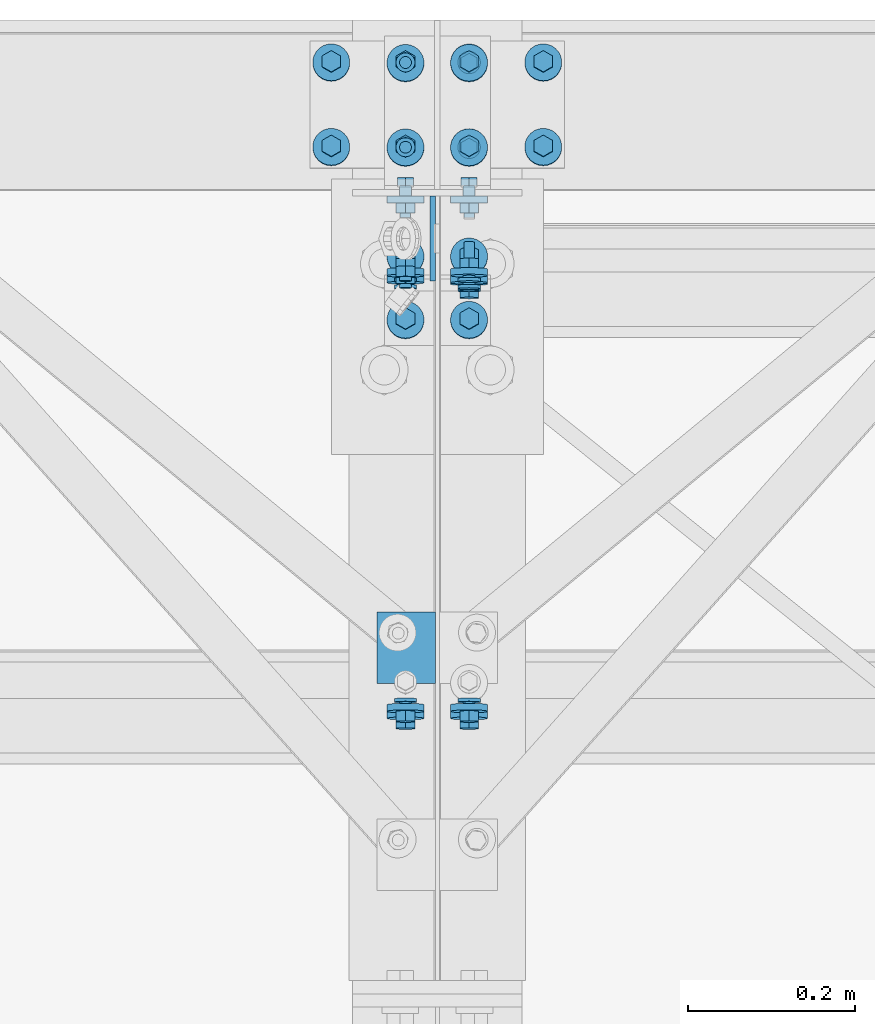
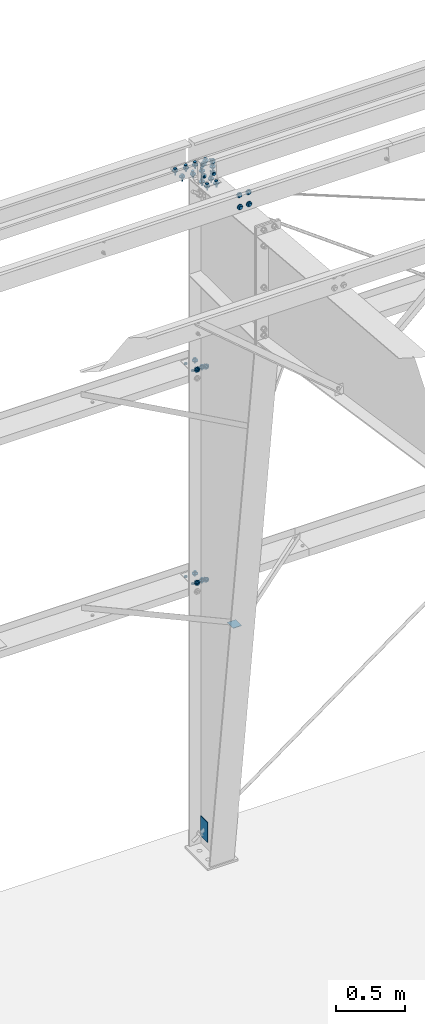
# One storey, part 88 of 185: 18 mechanical fasteners, 2 discrete accessories, 12 elements without a shape of their own.
"""IFC2X3 building model written with IfcOpenShell, lengths in millimetres."""

from ifc_helpers import new_model, si_unit, frame, origin_with_axes, origin_2d_with_axis, place, context, subcontext, project, spatial, polyline, rectangle, circle, outline, extrude, source, transform, mapped, material, type_object, element, aggregate, save


model = new_model("IFC2X3")

# Units and contexts
model_context = context("Model", 3, precision=1e-05, world=origin_with_axes())
body_context = subcontext(model_context, "Body", "Model", "MODEL_VIEW")
ifc_project = project(units=[si_unit("LENGTHUNIT", "METRE", prefix="MILLI"), si_unit("AREAUNIT", "SQUARE_METRE"), si_unit("VOLUMEUNIT", "CUBIC_METRE"), si_unit("MASSUNIT", "GRAM", prefix="KILO"), si_unit("TIMEUNIT", "SECOND"), si_unit("PLANEANGLEUNIT", "RADIAN"), si_unit("SOLIDANGLEUNIT", "STERADIAN"), si_unit("THERMODYNAMICTEMPERATUREUNIT", "DEGREE_CELSIUS"), si_unit("LUMINOUSINTENSITYUNIT", "LUMEN")], contexts=[model_context])

# Site, building, storey
site_placement = place(None, origin_with_axes())
site = spatial("IfcSite", under=ifc_project, at=site_placement, Name="Undefined", CompositionType="ELEMENT")
building_placement = place(site_placement, origin_with_axes())
building = spatial("IfcBuilding", under=site, at=building_placement, Name="Undefined", CompositionType="ELEMENT")
storey_placement = place(building_placement, origin_with_axes())
storey = spatial("IfcBuildingStorey", under=building, at=storey_placement, Name="Undefined", CompositionType="ELEMENT", Elevation=0.0)

# Assembly, mechanical fasteners
assembly_1_placement = place(storey_placement, origin_with_axes())
assembly_1 = element("IfcElementAssembly", 1, at=assembly_1_placement, inside=storey, Name="Steel Assembly", AssemblyPlace="NOTDEFINED", PredefinedType="RIGID_FRAME")
ifc_material_1 = material(Name="Undefined")
discrete_accessory_type_1 = type_object("IfcDiscreteAccessoryType", Name="Bolt assembly")
shared_shape_1 = source(origin_with_axes(), body_context, "Body", "SweptSolid", [
    extrude(circle(Radius=7.14374971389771, at=origin_2d_with_axis()), frame((0.0, -1.59000001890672, 0.0), z_axis=(0.0, 1.0, 0.0), x_axis=(1.0, 0.0, 0.0)), (0.0, 0.0, 1.0), 3.3),
    extrude(circle(Radius=13.4937496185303, at=origin_2d_with_axis()), frame((0.0, -5.5587500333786, 0.0), z_axis=(0.0, 1.0, 0.0), x_axis=(1.0, 0.0, 0.0)), (0.0, 0.0, 1.0), 4.0),
    extrude(circle(Radius=22.2250003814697, at=origin_2d_with_axis()), frame((0.0, 1.5900000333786, 0.0), z_axis=(0.0, 1.0, 0.0), x_axis=(1.0, 0.0, 0.0)), (0.0, 0.0, 1.0), 7.9),
    extrude(outline(polyline([(12.8316099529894, 0.0), (6.4158049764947, 11.1125001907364), (-6.4158049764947, 11.1125001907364), (-12.8316099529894, 0.0), (-6.4158049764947, -11.1125001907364), (6.4158049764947, -11.1125001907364), (12.8316099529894, 0.0)])), frame((0.0, 9.5275000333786, 0.0), z_axis=(0.0, 1.0, 0.0), x_axis=(1.0, 0.0, 0.0)), (0.0, 0.0, 1.0), 12.3),
])
mechanical_fastener_1_placement = place(assembly_1_placement, frame((7277.1, 31696.1295150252, 6070.67979008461), z_axis=(1.0, 0.0, 0.0), x_axis=(0.0, -0.0830454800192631, -0.996545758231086)))
mechanical_fastener_1 = element("IfcMechanicalFastener", 2, at=mechanical_fastener_1_placement, type_object=discrete_accessory_type_1, material=ifc_material_1, Name="Bolt assembly", NominalDiameter=12.6999998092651, NominalLength=38.0999984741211, context=body_context, shape_type="MappedRepresentation", body=[
    mapped(shared_shape_1, transform((0.0, 0.0, 0.0))),
    mapped(shared_shape_1, transform((101.599998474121, 0.0, 0.0))),
])
mechanical_fastener_2_placement = place(assembly_1_placement, frame((7200.9, 31696.1295150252, 6070.67979008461), z_axis=(1.0, 0.0, 0.0), x_axis=(0.0, -0.0830454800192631, -0.996545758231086)))
mechanical_fastener_2 = element("IfcMechanicalFastener", 3, at=mechanical_fastener_2_placement, type_object=discrete_accessory_type_1, material=ifc_material_1, Name="Bolt assembly", NominalDiameter=12.6999998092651, NominalLength=38.0999984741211, context=body_context, shape_type="MappedRepresentation", body=[
    mapped(shared_shape_1, transform((0.0, 0.0, 0.0))),
    mapped(shared_shape_1, transform((101.599998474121, 0.0, 0.0))),
])

# Assembly, mechanical fastener
assembly_2_placement = place(storey_placement, origin_with_axes())
assembly_2 = element("IfcElementAssembly", 4, at=assembly_2_placement, inside=storey, Name="Steel Assembly", AssemblyPlace="NOTDEFINED", PredefinedType="RIGID_FRAME")
mechanical_fastener_3_placement = place(assembly_2_placement, frame((7200.9, 31185.1382206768, 6113.2623980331), z_axis=(-1.0, 0.0, 0.0), x_axis=(0.0, -0.0830454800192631, -0.996545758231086)))
mechanical_fastener_3 = element("IfcMechanicalFastener", 5, at=mechanical_fastener_3_placement, type_object=discrete_accessory_type_1, material=ifc_material_1, Name="Bolt assembly", NominalDiameter=12.6999998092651, NominalLength=38.0999984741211, context=body_context, shape_type="MappedRepresentation", body=[
    mapped(shared_shape_1, transform((0.0, 0.0, 0.0))),
    mapped(shared_shape_1, transform((101.599998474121, 0.0, 0.0))),
])
aggregate(assembly_2, [mechanical_fastener_3])

assembly_3_placement = place(storey_placement, origin_with_axes())
assembly_3 = element("IfcElementAssembly", 6, at=assembly_3_placement, inside=storey, Name="Steel Assembly", AssemblyPlace="NOTDEFINED", PredefinedType="RIGID_FRAME")
mechanical_fastener_4_placement = place(assembly_3_placement, frame((7277.1, 31185.1382206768, 6113.2623980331), z_axis=(-1.0, 0.0, 0.0), x_axis=(0.0, -0.0830454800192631, -0.996545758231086)))
mechanical_fastener_4 = element("IfcMechanicalFastener", 7, at=mechanical_fastener_4_placement, type_object=discrete_accessory_type_1, material=ifc_material_1, Name="Bolt assembly", NominalDiameter=12.6999998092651, NominalLength=38.0999984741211, context=body_context, shape_type="MappedRepresentation", body=[
    mapped(shared_shape_1, transform((0.0, 0.0, 0.0))),
    mapped(shared_shape_1, transform((101.599998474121, 0.0, 0.0))),
])
aggregate(assembly_3, [mechanical_fastener_4])

# Assembly, discrete accessory
assembly_4_placement = place(storey_placement, origin_with_axes())
assembly_4 = element("IfcElementAssembly", 8, at=assembly_4_placement, inside=storey, Name="Steel Assembly", AssemblyPlace="NOTDEFINED", PredefinedType="RIGID_FRAME")
ifc_material_2 = material(Name="STEEL/55")
discrete_accessory_type_2 = type_object("IfcDiscreteAccessoryType", Name="FLANGE BRACE FLIP")
discrete_accessory_1_placement = place(assembly_4_placement, frame((7236.61875, 31251.9277679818, 2284.292), z_axis=(0.0, 1.0, 0.0), x_axis=(-1.0, 0.0, 0.0)))
discrete_accessory_1 = element("IfcDiscreteAccessory", 9, at=discrete_accessory_1_placement, type_object=discrete_accessory_type_2, material=ifc_material_2, Name="FLANGE BRACE FLIP", ObjectType="PL1/8\"X2 3/4\"", context=body_context, shape_type="SweptSolid", body=[
    extrude(rectangle(XDim=3.416, YDim=85.725, at=origin_2d_with_axis()), frame((69.8499999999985, 0.0, 0.0), z_axis=(-1.0, 0.0, 0.0), x_axis=(0.0, -1.0, 0.0)), (0.0, 0.0, 1.0), 69.9),
])

# Assembly, mechanical fastener
assembly_5_placement = place(storey_placement, origin_with_axes())
assembly_5 = element("IfcElementAssembly", 10, at=assembly_5_placement, inside=storey, Name="Steel Assembly", AssemblyPlace="NOTDEFINED", PredefinedType="RIGID_FRAME")
shared_shape_2 = source(origin_with_axes(), body_context, "Body", "SweptSolid", [
    extrude(circle(Radius=7.14374971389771, at=origin_2d_with_axis()), frame((0.0, -0.1, 0.0), z_axis=(0.0, 1.0, 0.0), x_axis=(1.0, 0.0, 0.0)), (0.0, 0.0, 1.0), 8.0),
    extrude(circle(Radius=7.14374971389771, at=origin_2d_with_axis()), frame((0.0, -4.66250000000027, 0.0), z_axis=(0.0, 1.0, 0.0), x_axis=(1.0, 0.0, 0.0)), (0.0, 0.0, 1.0), 4.8),
    extrude(outline(polyline([(10.9985221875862, 0.0), (5.4992610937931, 9.52499961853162), (-5.4992610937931, 9.52499961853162), (-10.9985221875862, 0.0), (-5.4992610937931, -9.52499961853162), (5.4992610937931, -9.52499961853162), (10.9985221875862, 0.0)])), frame((0.0, -14.2874996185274, 0.0), z_axis=(0.0, 1.0, 0.0), x_axis=(1.0, 0.0, 0.0)), (0.0, 0.0, 1.0), 9.5),
    extrude(circle(Radius=6.34999990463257, at=origin_2d_with_axis()), frame((0.0, -4.76250000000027, 0.0), z_axis=(0.0, 1.0, 0.0), x_axis=(1.0, 0.0, 0.0)), (0.0, 0.0, 1.0), 38.1),
    extrude(circle(Radius=22.2250003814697, at=origin_2d_with_axis()), frame((0.0, 7.87399999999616, 0.0), z_axis=(0.0, 1.0, 0.0), x_axis=(1.0, 0.0, 0.0)), (0.0, 0.0, 1.0), 7.9),
    extrude(outline(polyline([(12.8316099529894, 0.0), (6.4158049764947, 11.1125001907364), (-6.4158049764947, 11.1125001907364), (-12.8316099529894, 0.0), (-6.4158049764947, -11.1125001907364), (6.4158049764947, -11.1125001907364), (12.8316099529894, 0.0)])), frame((0.0, 15.8114999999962, 0.0), z_axis=(0.0, 1.0, 0.0), x_axis=(1.0, 0.0, 0.0)), (0.0, 0.0, 1.0), 12.3),
])
mechanical_fastener_5_placement = place(assembly_5_placement, frame((7239.0, 31800.8, 2324.1), z_axis=(1.0, 0.0, 0.0), x_axis=(0.0, 0.0, 1.0)))
mechanical_fastener_5 = element("IfcMechanicalFastener", 11, at=mechanical_fastener_5_placement, type_object=discrete_accessory_type_1, material=ifc_material_1, Name="Bolt assembly", NominalDiameter=12.6999998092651, NominalLength=38.0999984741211, context=body_context, shape_type="MappedRepresentation", body=[
    mapped(shared_shape_2, transform((0.0, 0.0, -38.0999984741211))),
    mapped(shared_shape_2, transform((0.0, 0.0, 38.0999984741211))),
])

assembly_6_placement = place(storey_placement, origin_with_axes())
assembly_6 = element("IfcElementAssembly", 12, at=assembly_6_placement, inside=storey, Name="Steel Assembly", AssemblyPlace="NOTDEFINED", PredefinedType="RIGID_FRAME")
mechanical_fastener_6_placement = place(assembly_6_placement, frame((7239.0, 31800.8, 4203.7), z_axis=(1.0, 0.0, 0.0), x_axis=(0.0, 0.0, 1.0)))
mechanical_fastener_6 = element("IfcMechanicalFastener", 13, at=mechanical_fastener_6_placement, type_object=discrete_accessory_type_1, material=ifc_material_1, Name="Bolt assembly", NominalDiameter=12.6999998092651, NominalLength=38.0999984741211, context=body_context, shape_type="MappedRepresentation", body=[
    mapped(shared_shape_2, transform((0.0, 0.0, -38.0999984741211))),
    mapped(shared_shape_2, transform((0.0, 0.0, 38.0999984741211))),
])

# Discrete accessory
discrete_accessory_type_3 = type_object("IfcDiscreteAccessoryType", Name="BACKUP PL SINGLE SLOT")
discrete_accessory_2_placement = place(assembly_4_placement, frame((7233.44375127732, 31742.1288478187, 256.370463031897), z_axis=(-0.000896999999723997, -0.999999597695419, 0.0), x_axis=(0.0, 0.0, -1.0)))
discrete_accessory_2 = element("IfcDiscreteAccessory", 14, at=discrete_accessory_2_placement, type_object=discrete_accessory_type_3, material=ifc_material_2, Name="BACKUP PL SINGLE SLOT", ObjectType="FL1/4\"X4\"", context=body_context, shape_type="SweptSolid", body=[
    extrude(rectangle(XDim=6.35, YDim=101.6, at=origin_2d_with_axis()), frame((177.800000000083, 0.0, 0.0), z_axis=(-1.0, 0.0, 0.0), x_axis=(0.0, -1.0, 0.0)), (0.0, 0.0, 1.0), 177.8),
])

# Assembly, mechanical fastener
assembly_7_placement = place(storey_placement, origin_with_axes())
assembly_7 = element("IfcElementAssembly", 15, at=assembly_7_placement, inside=storey, Name="Steel Assembly", AssemblyPlace="NOTDEFINED", PredefinedType="RIGID_FRAME")
ifc_material_3 = material(Name="7990")
shared_shape_3 = source(origin_with_axes(), body_context, "Body", "SweptSolid", [
    extrude(circle(Radius=7.14374971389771, at=origin_2d_with_axis()), frame((0.0, -1.4900000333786, 0.0), z_axis=(0.0, 1.0, 0.0), x_axis=(1.0, 0.0, 0.0)), (0.0, 0.0, 1.0), 3.2),
    extrude(circle(Radius=7.14374971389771, at=origin_2d_with_axis()), frame((0.0, -1.4900000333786, 0.0), z_axis=(0.0, 1.0, 0.0), x_axis=(1.0, 0.0, 0.0)), (0.0, 0.0, 1.0), 3.2),
    extrude(circle(Radius=11.4299998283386, at=origin_2d_with_axis()), frame((0.0, 1.5900000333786, 0.0), z_axis=(0.0, 1.0, 0.0), x_axis=(1.0, 0.0, 0.0)), (0.0, 0.0, 1.0), 4.2),
    extrude(outline(polyline([(12.171698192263, 0.0), (6.08584909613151, 10.5409998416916), (-6.08584909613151, 10.5409998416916), (-12.171698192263, 0.0), (-6.08584909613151, -10.5409998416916), (6.08584909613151, -10.5409998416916), (12.171698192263, 0.0)])), frame((0.0, 5.78099997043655, 0.0), z_axis=(0.0, 1.0, 0.0), x_axis=(1.0, 0.0, 0.0)), (0.0, 0.0, 1.0), 8.4),
])
mechanical_fastener_7_placement = place(assembly_7_placement, frame((7200.9, 31953.2, 2286.0), z_axis=(1.0, 0.0, 0.0), x_axis=(0.0, -1.0, 0.0)))
mechanical_fastener_7 = element("IfcMechanicalFastener", 16, at=mechanical_fastener_7_placement, type_object=discrete_accessory_type_1, material=ifc_material_3, Name="Bolt assembly", NominalDiameter=12.6999998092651, NominalLength=38.0999984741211, context=body_context, shape_type="MappedRepresentation", body=[
    mapped(shared_shape_3, transform((0.0, 0.0, 0.0))),
    mapped(shared_shape_3, transform((101.599998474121, 0.0, 0.0))),
])
aggregate(assembly_7, [mechanical_fastener_7])

assembly_8_placement = place(storey_placement, origin_with_axes())
assembly_8 = element("IfcElementAssembly", 17, at=assembly_8_placement, inside=storey, Name="Steel Assembly", AssemblyPlace="NOTDEFINED", PredefinedType="RIGID_FRAME")
mechanical_fastener_8_placement = place(assembly_8_placement, frame((7200.9, 31953.2, 4165.6), z_axis=(1.0, 0.0, 0.0), x_axis=(0.0, -1.0, 0.0)))
mechanical_fastener_8 = element("IfcMechanicalFastener", 18, at=mechanical_fastener_8_placement, type_object=discrete_accessory_type_1, material=ifc_material_3, Name="Bolt assembly", NominalDiameter=12.6999998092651, NominalLength=38.0999984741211, context=body_context, shape_type="MappedRepresentation", body=[
    mapped(shared_shape_3, transform((0.0, 0.0, 0.0))),
    mapped(shared_shape_3, transform((101.599998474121, 0.0, 0.0))),
])
aggregate(assembly_8, [mechanical_fastener_8])

# Mechanical fastener
shared_shape_4 = source(origin_with_axes(), body_context, "Body", "SweptSolid", [
    extrude(circle(Radius=7.14374971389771, at=origin_2d_with_axis()), frame((0.0, -1.59000001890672, 0.0), z_axis=(0.0, 1.0, 0.0), x_axis=(1.0, 0.0, 0.0)), (0.0, 0.0, 1.0), 3.2),
    extrude(circle(Radius=7.14374971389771, at=origin_2d_with_axis()), frame((0.0, -4.66250000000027, 0.0), z_axis=(0.0, 1.0, 0.0), x_axis=(1.0, 0.0, 0.0)), (0.0, 0.0, 1.0), 4.8),
    extrude(circle(Radius=7.14374971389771, at=origin_2d_with_axis()), frame((0.0, -1.59000001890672, 0.0), z_axis=(0.0, 1.0, 0.0), x_axis=(1.0, 0.0, 0.0)), (0.0, 0.0, 1.0), 3.2),
    extrude(outline(polyline([(10.9985221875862, 0.0), (5.4992610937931, 9.52499961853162), (-5.4992610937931, 9.52499961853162), (-10.9985221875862, 0.0), (-5.4992610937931, -9.52499961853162), (5.4992610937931, -9.52499961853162), (10.9985221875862, 0.0)])), frame((0.0, -18.2562496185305, 0.0), z_axis=(0.0, 1.0, 0.0), x_axis=(1.0, 0.0, 0.0)), (0.0, 0.0, 1.0), 9.5),
    extrude(circle(Radius=6.34999990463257, at=origin_2d_with_axis()), frame((0.0, -8.73125000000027, 0.0), z_axis=(0.0, 1.0, 0.0), x_axis=(1.0, 0.0, 0.0)), (0.0, 0.0, 1.0), 38.1),
    extrude(circle(Radius=13.4937496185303, at=origin_2d_with_axis()), frame((0.0, -8.73125000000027, 0.0), z_axis=(0.0, 1.0, 0.0), x_axis=(1.0, 0.0, 0.0)), (0.0, 0.0, 1.0), 4.0),
    extrude(circle(Radius=22.2250003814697, at=origin_2d_with_axis()), frame((0.0, 1.5900000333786, 0.0), z_axis=(0.0, 1.0, 0.0), x_axis=(1.0, 0.0, 0.0)), (0.0, 0.0, 1.0), 7.9),
    extrude(outline(polyline([(12.8316099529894, 0.0), (6.4158049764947, 11.1125001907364), (-6.4158049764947, 11.1125001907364), (-12.8316099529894, 0.0), (-6.4158049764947, -11.1125001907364), (6.4158049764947, -11.1125001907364), (12.8316099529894, 0.0)])), frame((0.0, 9.5275000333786, 0.0), z_axis=(0.0, 1.0, 0.0), x_axis=(1.0, 0.0, 0.0)), (0.0, 0.0, 1.0), 12.3),
])
mechanical_fastener_9_placement = place(assembly_5_placement, frame((7277.1, 31953.2, 2286.0), z_axis=(1.0, 0.0, 0.0), x_axis=(0.0, -1.0, 0.0)))
mechanical_fastener_9 = element("IfcMechanicalFastener", 19, at=mechanical_fastener_9_placement, type_object=discrete_accessory_type_1, material=ifc_material_1, Name="Bolt assembly", NominalDiameter=12.6999998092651, NominalLength=38.0999984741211, context=body_context, shape_type="MappedRepresentation", body=[
    mapped(shared_shape_4, transform((0.0, 0.0, 0.0))),
    mapped(shared_shape_4, transform((101.599998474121, 0.0, 0.0))),
])

aggregate(assembly_5, [mechanical_fastener_5, mechanical_fastener_9])

mechanical_fastener_10_placement = place(assembly_6_placement, frame((7277.1, 31953.2, 4165.6), z_axis=(1.0, 0.0, 0.0), x_axis=(0.0, -1.0, 0.0)))
mechanical_fastener_10 = element("IfcMechanicalFastener", 20, at=mechanical_fastener_10_placement, type_object=discrete_accessory_type_1, material=ifc_material_1, Name="Bolt assembly", NominalDiameter=12.6999998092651, NominalLength=38.0999984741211, context=body_context, shape_type="MappedRepresentation", body=[
    mapped(shared_shape_4, transform((0.0, 0.0, 0.0))),
    mapped(shared_shape_4, transform((101.599998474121, 0.0, 0.0))),
])

aggregate(assembly_6, [mechanical_fastener_6, mechanical_fastener_10])

shared_shape_5 = source(origin_with_axes(), body_context, "Body", "SweptSolid", [
    extrude(circle(Radius=7.14374971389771, at=origin_2d_with_axis()), frame((0.0, -0.1, 0.0), z_axis=(0.0, 1.0, 0.0), x_axis=(1.0, 0.0, 0.0)), (0.0, 0.0, 1.0), 8.1),
    extrude(circle(Radius=7.14374971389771, at=origin_2d_with_axis()), frame((0.0, -3.08000006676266, 0.0), z_axis=(0.0, 1.0, 0.0), x_axis=(1.0, 0.0, 0.0)), (0.0, 0.0, 1.0), 3.2),
    extrude(outline(polyline([(12.8316099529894, 0.0), (6.4158049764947, 11.1125001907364), (-6.4158049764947, 11.1125001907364), (-12.8316099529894, 0.0), (-6.4158049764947, -11.1125001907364), (6.4158049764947, -11.1125001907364), (12.8316099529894, 0.0)])), frame((0.0, -11.1175003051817, 0.0), z_axis=(0.0, 1.0, 0.0), x_axis=(1.0, 0.0, 0.0)), (0.0, 0.0, 1.0), 7.9),
    extrude(circle(Radius=6.34999990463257, at=origin_2d_with_axis()), frame((0.0, -3.18000030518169, 0.0), z_axis=(0.0, 1.0, 0.0), x_axis=(1.0, 0.0, 0.0)), (0.0, 0.0, 1.0), 50.8),
    extrude(circle(Radius=22.2250003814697, at=origin_2d_with_axis()), frame((0.0, 7.95019856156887, 0.0), z_axis=(0.0, 1.0, 0.0), x_axis=(1.0, 0.0, 0.0)), (0.0, 0.0, 1.0), 7.9),
    extrude(outline(polyline([(12.8316099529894, 0.0), (6.4158049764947, 11.1125001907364), (-6.4158049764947, 11.1125001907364), (-12.8316099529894, 0.0), (-6.4158049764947, -11.1125001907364), (6.4158049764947, -11.1125001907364), (12.8316099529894, 0.0)])), frame((0.0, 15.8876985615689, 0.0), z_axis=(0.0, 1.0, 0.0), x_axis=(1.0, 0.0, 0.0)), (0.0, 0.0, 1.0), 12.3),
])
mechanical_fastener_11_placement = place(assembly_1_placement, frame((7239.0, 31721.4417772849, 5915.64218374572), z_axis=(-1.0, 0.0, 0.0), x_axis=(0.0, 0.996545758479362, -0.0830454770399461)))
mechanical_fastener_11 = element("IfcMechanicalFastener", 21, at=mechanical_fastener_11_placement, type_object=discrete_accessory_type_1, material=ifc_material_1, Name="Bolt assembly", NominalDiameter=12.6999998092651, NominalLength=50.7999992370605, context=body_context, shape_type="MappedRepresentation", body=[
    mapped(shared_shape_5, transform((0.0, 0.0, -38.0999984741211))),
    mapped(shared_shape_5, transform((0.0, 0.0, 38.0999984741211))),
])

aggregate(assembly_1, [mechanical_fastener_1, mechanical_fastener_2, mechanical_fastener_11])

shared_shape_6 = source(origin_with_axes(), body_context, "Body", "SweptSolid", [
    extrude(circle(Radius=7.14374971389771, at=origin_2d_with_axis()), frame((0.0, -4.65999985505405, 0.0), z_axis=(0.0, 1.0, 0.0), x_axis=(1.0, 0.0, 0.0)), (0.0, 0.0, 1.0), 4.8),
    extrude(circle(Radius=7.14374971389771, at=origin_2d_with_axis()), frame((0.0, -0.1, 0.0), z_axis=(0.0, 1.0, 0.0), x_axis=(1.0, 0.0, 0.0)), (0.0, 0.0, 1.0), 8.1),
    extrude(outline(polyline([(12.8316099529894, 0.0), (6.4158049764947, 11.1125001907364), (-6.4158049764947, 11.1125001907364), (-12.8316099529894, 0.0), (-6.4158049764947, -11.1125001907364), (6.4158049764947, -11.1125001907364), (12.8316099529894, 0.0)])), frame((0.0, -12.697499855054, 0.0), z_axis=(0.0, 1.0, 0.0), x_axis=(1.0, 0.0, 0.0)), (0.0, 0.0, 1.0), 7.9),
    extrude(circle(Radius=6.34999990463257, at=origin_2d_with_axis()), frame((0.0, -4.75999985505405, 0.0), z_axis=(0.0, 1.0, 0.0), x_axis=(1.0, 0.0, 0.0)), (0.0, 0.0, 1.0), 50.8),
    extrude(circle(Radius=22.2250003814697, at=origin_2d_with_axis()), frame((0.0, 7.95019856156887, 0.0), z_axis=(0.0, 1.0, 0.0), x_axis=(1.0, 0.0, 0.0)), (0.0, 0.0, 1.0), 7.9),
    extrude(outline(polyline([(12.8316099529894, 0.0), (6.4158049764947, 11.1125001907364), (-6.4158049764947, 11.1125001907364), (-12.8316099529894, 0.0), (-6.4158049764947, -11.1125001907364), (6.4158049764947, -11.1125001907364), (12.8316099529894, 0.0)])), frame((0.0, 15.8876985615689, 0.0), z_axis=(0.0, 1.0, 0.0), x_axis=(1.0, 0.0, 0.0)), (0.0, 0.0, 1.0), 12.3),
])
mechanical_fastener_12_placement = place(assembly_4_placement, frame((7239.0, 31645.5049905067, 5921.97024931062), z_axis=(1.0, 0.0, 0.0), x_axis=(0.0, -0.996545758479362, 0.0830454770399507)))
mechanical_fastener_12 = element("IfcMechanicalFastener", 22, at=mechanical_fastener_12_placement, type_object=discrete_accessory_type_1, material=ifc_material_1, Name="Bolt assembly", NominalDiameter=12.6999998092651, NominalLength=50.7999992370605, context=body_context, shape_type="MappedRepresentation", body=[
    mapped(shared_shape_6, transform((0.0, 0.0, -38.0999984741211))),
    mapped(shared_shape_6, transform((0.0, 0.0, 38.0999984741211))),
])

aggregate(assembly_4, [discrete_accessory_1, discrete_accessory_2, mechanical_fastener_12])

# Assembly, mechanical fasteners
assembly_9_placement = place(storey_placement, origin_with_axes())
assembly_9 = element("IfcElementAssembly", 23, at=assembly_9_placement, inside=storey, Name="Steel Assembly", AssemblyPlace="NOTDEFINED", PredefinedType="RIGID_FRAME")
shared_shape_7 = source(origin_with_axes(), body_context, "Body", "SweptSolid", [
    extrude(circle(Radius=7.14374971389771, at=origin_2d_with_axis()), frame((0.0, -4.75999985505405, 0.0), z_axis=(0.0, 1.0, 0.0), x_axis=(1.0, 0.0, 0.0)), (0.0, 0.0, 1.0), 4.9),
    extrude(outline(polyline([(12.8316099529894, 0.0), (6.4158049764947, 11.1125001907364), (-6.4158049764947, 11.1125001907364), (-12.8316099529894, 0.0), (-6.4158049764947, -11.1125001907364), (6.4158049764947, -11.1125001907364), (12.8316099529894, 0.0)])), frame((0.0, 0.0, 0.0), z_axis=(0.0, 1.0, 0.0), x_axis=(1.0, 0.0, 0.0)), (0.0, 0.0, 1.0), 12.3),
])
mechanical_fastener_13_placement = place(assembly_9_placement, frame((7200.9, 31696.1295150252, 6070.67979008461), z_axis=(1.0, 0.0, 0.0), x_axis=(0.0, -0.0830454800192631, -0.996545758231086)))
mechanical_fastener_13 = element("IfcMechanicalFastener", 24, at=mechanical_fastener_13_placement, type_object=discrete_accessory_type_1, material=ifc_material_1, Name="Bolt assembly", NominalDiameter=12.6999998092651, NominalLength=50.7999992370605, context=body_context, shape_type="MappedRepresentation", body=[
    mapped(shared_shape_7, transform((0.0, 0.0, 0.0))),
    mapped(shared_shape_7, transform((101.599998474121, 0.0, 0.0))),
])
shared_shape_8 = source(origin_with_axes(), body_context, "Body", "SweptSolid", [
    extrude(circle(Radius=7.14374971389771, at=origin_2d_with_axis()), frame((0.0, -4.75999985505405, 0.0), z_axis=(0.0, 1.0, 0.0), x_axis=(1.0, 0.0, 0.0)), (0.0, 0.0, 1.0), 4.9),
    extrude(outline(polyline([(12.8316099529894, 0.0), (6.4158049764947, 11.1125001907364), (-6.4158049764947, 11.1125001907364), (-12.8316099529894, 0.0), (-6.4158049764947, -11.1125001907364), (6.4158049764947, -11.1125001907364), (12.8316099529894, 0.0)])), frame((0.0, -16.6662538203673, 0.0), z_axis=(0.0, 1.0, 0.0), x_axis=(1.0, 0.0, 0.0)), (0.0, 0.0, 1.0), 7.9),
    extrude(circle(Radius=6.34999990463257, at=origin_2d_with_axis()), frame((0.0, -8.72875382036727, 0.0), z_axis=(0.0, 1.0, 0.0), x_axis=(1.0, 0.0, 0.0)), (0.0, 0.0, 1.0), 50.8),
    extrude(circle(Radius=13.4937496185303, at=origin_2d_with_axis()), frame((0.0, -8.72875382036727, 0.0), z_axis=(0.0, 1.0, 0.0), x_axis=(1.0, 0.0, 0.0)), (0.0, 0.0, 1.0), 4.0),
    extrude(circle(Radius=22.2250003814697, at=origin_2d_with_axis()), frame((0.0, 0.0, 0.0), z_axis=(0.0, 1.0, 0.0), x_axis=(1.0, 0.0, 0.0)), (0.0, 0.0, 1.0), 7.9),
    extrude(outline(polyline([(12.8316099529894, 0.0), (6.4158049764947, 11.1125001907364), (-6.4158049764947, 11.1125001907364), (-12.8316099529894, 0.0), (-6.4158049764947, -11.1125001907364), (6.4158049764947, -11.1125001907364), (12.8316099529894, 0.0)])), frame((0.0, 7.93750000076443, 0.0), z_axis=(0.0, 1.0, 0.0), x_axis=(1.0, 0.0, 0.0)), (0.0, 0.0, 1.0), 12.3),
])
mechanical_fastener_14_placement = place(assembly_9_placement, frame((7277.1, 31696.1295150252, 6070.67979008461), z_axis=(1.0, 0.0, 0.0), x_axis=(0.0, -0.0830454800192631, -0.996545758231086)))
mechanical_fastener_14 = element("IfcMechanicalFastener", 25, at=mechanical_fastener_14_placement, type_object=discrete_accessory_type_1, material=ifc_material_1, Name="Bolt assembly", NominalDiameter=12.6999998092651, NominalLength=50.7999992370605, context=body_context, shape_type="MappedRepresentation", body=[
    mapped(shared_shape_8, transform((0.0, 0.0, 0.0))),
    mapped(shared_shape_8, transform((101.599998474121, 0.0, 0.0))),
])
aggregate(assembly_9, [mechanical_fastener_13, mechanical_fastener_14])

assembly_10_placement = place(storey_placement, origin_with_axes())
assembly_10 = element("IfcElementAssembly", 26, at=assembly_10_placement, inside=storey, Name="Steel Assembly", AssemblyPlace="NOTDEFINED", PredefinedType="RIGID_FRAME")
shared_shape_9 = source(origin_with_axes(), body_context, "Body", "SweptSolid", [
    extrude(circle(Radius=7.14499998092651, at=origin_2d_with_axis()), frame((0.0, -7.8375000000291, 0.0), z_axis=(0.0, 1.0, 0.0), x_axis=(1.0, 0.0, 0.0)), (0.0, 0.0, 1.0), 6.3),
    extrude(circle(Radius=7.14499998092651, at=origin_2d_with_axis()), frame((0.0, -1.58749999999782, 0.0), z_axis=(0.0, 1.0, 0.0), x_axis=(1.0, 0.0, 0.0)), (0.0, 0.0, 1.0), 1.6),
    extrude(circle(Radius=7.14499998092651, at=origin_2d_with_axis()), frame((0.0, -0.1, 0.0), z_axis=(0.0, 1.0, 0.0), x_axis=(1.0, 0.0, 0.0)), (0.0, 0.0, 1.0), 8.1),
    extrude(outline(polyline([(12.8316099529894, 0.0), (6.4158049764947, 11.1125001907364), (-6.4158049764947, 11.1125001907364), (-12.8316099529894, 0.0), (-6.4158049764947, -11.1125001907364), (6.4158049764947, -11.1125001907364), (12.8316099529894, 0.0)])), frame((0.0, -15.8750000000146, 0.0), z_axis=(0.0, 1.0, 0.0), x_axis=(1.0, 0.0, 0.0)), (0.0, 0.0, 1.0), 7.9),
    extrude(circle(Radius=6.34999990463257, at=origin_2d_with_axis()), frame((0.0, -7.93749389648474, 0.0), z_axis=(0.0, 1.0, 0.0), x_axis=(1.0, 0.0, 0.0)), (0.0, 0.0, 1.0), 50.8),
    extrude(circle(Radius=22.2250003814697, at=origin_2d_with_axis()), frame((0.0, 7.95019856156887, 0.0), z_axis=(0.0, 1.0, 0.0), x_axis=(1.0, 0.0, 0.0)), (0.0, 0.0, 1.0), 7.9),
    extrude(outline(polyline([(12.8316099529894, 0.0), (6.4158049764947, 11.1125001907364), (-6.4158049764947, 11.1125001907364), (-12.8316099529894, 0.0), (-6.4158049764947, -11.1125001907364), (6.4158049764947, -11.1125001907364), (12.8316099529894, 0.0)])), frame((0.0, 15.8876985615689, 0.0), z_axis=(0.0, 1.0, 0.0), x_axis=(1.0, 0.0, 0.0)), (0.0, 0.0, 1.0), 12.3),
])
mechanical_fastener_15_placement = place(assembly_10_placement, frame((7277.10000000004, 31953.3754762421, 5896.3143754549), z_axis=(1.0, 0.0, 0.0), x_axis=(0.0, -0.996545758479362, 0.0830454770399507)))
mechanical_fastener_15 = element("IfcMechanicalFastener", 27, at=mechanical_fastener_15_placement, type_object=discrete_accessory_type_1, material=ifc_material_1, Name="Bolt assembly", NominalDiameter=12.6999998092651, NominalLength=50.7999992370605, context=body_context, shape_type="MappedRepresentation", body=[
    mapped(shared_shape_9, transform((0.0, 0.0, 0.0))),
    mapped(shared_shape_9, transform((101.599998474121, 0.0, 0.0))),
])
shared_shape_10 = source(origin_with_axes(), body_context, "Body", "SweptSolid", [
    extrude(circle(Radius=7.14499998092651, at=origin_2d_with_axis()), frame((0.0, -7.8375000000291, 0.0), z_axis=(0.0, 1.0, 0.0), x_axis=(1.0, 0.0, 0.0)), (0.0, 0.0, 1.0), 6.3),
    extrude(circle(Radius=7.14499998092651, at=origin_2d_with_axis()), frame((0.0, -1.68750355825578, 0.0), z_axis=(0.0, 1.0, 0.0), x_axis=(1.0, 0.0, 0.0)), (0.0, 0.0, 1.0), 1.7),
    extrude(outline(polyline([(12.8316099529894, 0.0), (6.4158049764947, 11.1125001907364), (-6.4158049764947, 11.1125001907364), (-12.8316099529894, 0.0), (-6.4158049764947, -11.1125001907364), (6.4158049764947, -11.1125001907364), (12.8316099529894, 0.0)])), frame((0.0, -15.8750000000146, 0.0), z_axis=(0.0, 1.0, 0.0), x_axis=(1.0, 0.0, 0.0)), (0.0, 0.0, 1.0), 7.9),
    extrude(circle(Radius=6.34999990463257, at=origin_2d_with_axis()), frame((0.0, -7.93749389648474, 0.0), z_axis=(0.0, 1.0, 0.0), x_axis=(1.0, 0.0, 0.0)), (0.0, 0.0, 1.0), 50.8),
    extrude(circle(Radius=22.2250003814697, at=origin_2d_with_axis()), frame((0.0, 0.0, 0.0), z_axis=(0.0, 1.0, 0.0), x_axis=(1.0, 0.0, 0.0)), (0.0, 0.0, 1.0), 7.9),
    extrude(outline(polyline([(12.8316099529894, 0.0), (6.4158049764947, 11.1125001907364), (-6.4158049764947, 11.1125001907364), (-12.8316099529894, 0.0), (-6.4158049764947, -11.1125001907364), (6.4158049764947, -11.1125001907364), (12.8316099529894, 0.0)])), frame((0.0, 7.93750000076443, 0.0), z_axis=(0.0, 1.0, 0.0), x_axis=(1.0, 0.0, 0.0)), (0.0, 0.0, 1.0), 12.3),
])
mechanical_fastener_16_placement = place(assembly_10_placement, frame((7366.00000000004, 31953.3754762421, 5896.3143754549), z_axis=(1.0, 0.0, 0.0), x_axis=(0.0, -0.996545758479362, 0.0830454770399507)))
mechanical_fastener_16 = element("IfcMechanicalFastener", 28, at=mechanical_fastener_16_placement, type_object=discrete_accessory_type_1, material=ifc_material_1, Name="Bolt assembly", NominalDiameter=12.6999998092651, NominalLength=50.7999992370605, context=body_context, shape_type="MappedRepresentation", body=[
    mapped(shared_shape_10, transform((0.0, 0.0, 0.0))),
    mapped(shared_shape_10, transform((101.599998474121, 0.0, 0.0))),
])
aggregate(assembly_10, [mechanical_fastener_15, mechanical_fastener_16])

# Assembly, mechanical fastener
assembly_11_placement = place(storey_placement, origin_with_axes())
assembly_11 = element("IfcElementAssembly", 29, at=assembly_11_placement, inside=storey, Name="Steel Assembly", AssemblyPlace="NOTDEFINED", PredefinedType="RIGID_FRAME")
shared_shape_11 = source(origin_with_axes(), body_context, "Body", "SweptSolid", [
    extrude(circle(Radius=7.14374971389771, at=origin_2d_with_axis()), frame((0.0, -7.8375000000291, 0.0), z_axis=(0.0, 1.0, 0.0), x_axis=(1.0, 0.0, 0.0)), (0.0, 0.0, 1.0), 6.3),
    extrude(circle(Radius=7.14374971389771, at=origin_2d_with_axis()), frame((0.0, -1.68750355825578, 0.0), z_axis=(0.0, 1.0, 0.0), x_axis=(1.0, 0.0, 0.0)), (0.0, 0.0, 1.0), 1.7),
    extrude(outline(polyline([(12.8316099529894, 0.0), (6.4158049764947, 11.1125001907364), (-6.4158049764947, 11.1125001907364), (-12.8316099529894, 0.0), (-6.4158049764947, -11.1125001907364), (6.4158049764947, -11.1125001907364), (12.8316099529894, 0.0)])), frame((0.0, -15.8750000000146, 0.0), z_axis=(0.0, 1.0, 0.0), x_axis=(1.0, 0.0, 0.0)), (0.0, 0.0, 1.0), 7.9),
    extrude(circle(Radius=6.34999990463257, at=origin_2d_with_axis()), frame((0.0, -7.93749389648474, 0.0), z_axis=(0.0, 1.0, 0.0), x_axis=(1.0, 0.0, 0.0)), (0.0, 0.0, 1.0), 50.8),
    extrude(circle(Radius=22.2250003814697, at=origin_2d_with_axis()), frame((0.0, 0.0, 0.0), z_axis=(0.0, 1.0, 0.0), x_axis=(1.0, 0.0, 0.0)), (0.0, 0.0, 1.0), 7.9),
    extrude(outline(polyline([(12.8316099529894, 0.0), (6.4158049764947, 11.1125001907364), (-6.4158049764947, 11.1125001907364), (-12.8316099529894, 0.0), (-6.4158049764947, -11.1125001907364), (6.4158049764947, -11.1125001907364), (12.8316099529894, 0.0)])), frame((0.0, 7.93750000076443, 0.0), z_axis=(0.0, 1.0, 0.0), x_axis=(1.0, 0.0, 0.0)), (0.0, 0.0, 1.0), 12.3),
])
mechanical_fastener_17_placement = place(assembly_11_placement, frame((7112.00000000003, 31953.3754762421, 5896.3143754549), z_axis=(1.0, 0.0, 0.0), x_axis=(0.0, -0.996545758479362, 0.0830454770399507)))
mechanical_fastener_17 = element("IfcMechanicalFastener", 30, at=mechanical_fastener_17_placement, type_object=discrete_accessory_type_1, material=ifc_material_1, Name="Bolt assembly", NominalDiameter=12.6999998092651, NominalLength=50.7999992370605, context=body_context, shape_type="MappedRepresentation", body=[
    mapped(shared_shape_11, transform((0.0, 0.0, 0.0))),
    mapped(shared_shape_11, transform((101.599998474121, 0.0, 0.0))),
])
aggregate(assembly_11, [mechanical_fastener_17])

assembly_12_placement = place(storey_placement, origin_with_axes())
assembly_12 = element("IfcElementAssembly", 31, at=assembly_12_placement, inside=storey, Name="Steel Assembly", AssemblyPlace="NOTDEFINED", PredefinedType="RIGID_FRAME")
shared_shape_12 = source(origin_with_axes(), body_context, "Body", "SweptSolid", [
    extrude(circle(Radius=7.14499998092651, at=origin_2d_with_axis()), frame((0.0, -1.58749999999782, 0.0), z_axis=(0.0, 1.0, 0.0), x_axis=(1.0, 0.0, 0.0)), (0.0, 0.0, 1.0), 1.6),
    extrude(circle(Radius=7.14499998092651, at=origin_2d_with_axis()), frame((0.0, -7.8375000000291, 0.0), z_axis=(0.0, 1.0, 0.0), x_axis=(1.0, 0.0, 0.0)), (0.0, 0.0, 1.0), 6.3),
    extrude(circle(Radius=7.14499998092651, at=origin_2d_with_axis()), frame((0.0, -0.1, 0.0), z_axis=(0.0, 1.0, 0.0), x_axis=(1.0, 0.0, 0.0)), (0.0, 0.0, 1.0), 8.1),
    extrude(outline(polyline([(12.8316099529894, 0.0), (6.4158049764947, 11.1125001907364), (-6.4158049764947, 11.1125001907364), (-12.8316099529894, 0.0), (-6.4158049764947, -11.1125001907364), (6.4158049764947, -11.1125001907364), (12.8316099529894, 0.0)])), frame((0.0, -15.8750000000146, 0.0), z_axis=(0.0, 1.0, 0.0), x_axis=(1.0, 0.0, 0.0)), (0.0, 0.0, 1.0), 7.9),
    extrude(circle(Radius=6.34999990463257, at=origin_2d_with_axis()), frame((0.0, -7.93749389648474, 0.0), z_axis=(0.0, 1.0, 0.0), x_axis=(1.0, 0.0, 0.0)), (0.0, 0.0, 1.0), 50.8),
    extrude(circle(Radius=22.2250003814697, at=origin_2d_with_axis()), frame((0.0, 7.95019856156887, 0.0), z_axis=(0.0, 1.0, 0.0), x_axis=(1.0, 0.0, 0.0)), (0.0, 0.0, 1.0), 7.9),
    extrude(outline(polyline([(12.8316099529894, 0.0), (6.4158049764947, 11.1125001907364), (-6.4158049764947, 11.1125001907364), (-12.8316099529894, 0.0), (-6.4158049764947, -11.1125001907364), (6.4158049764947, -11.1125001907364), (12.8316099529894, 0.0)])), frame((0.0, 15.8876985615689, 0.0), z_axis=(0.0, 1.0, 0.0), x_axis=(1.0, 0.0, 0.0)), (0.0, 0.0, 1.0), 12.3),
])
mechanical_fastener_18_placement = place(assembly_12_placement, frame((7200.90000000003, 31953.3754762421, 5896.3143754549), z_axis=(1.0, 0.0, 0.0), x_axis=(0.0, -0.996545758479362, 0.0830454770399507)))
mechanical_fastener_18 = element("IfcMechanicalFastener", 32, at=mechanical_fastener_18_placement, type_object=discrete_accessory_type_1, material=ifc_material_1, Name="Bolt assembly", NominalDiameter=12.6999998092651, NominalLength=50.7999992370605, context=body_context, shape_type="MappedRepresentation", body=[
    mapped(shared_shape_12, transform((0.0, 0.0, 0.0))),
    mapped(shared_shape_12, transform((101.599998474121, 0.0, 0.0))),
])
aggregate(assembly_12, [mechanical_fastener_18])

save(model, "model.ifc")
